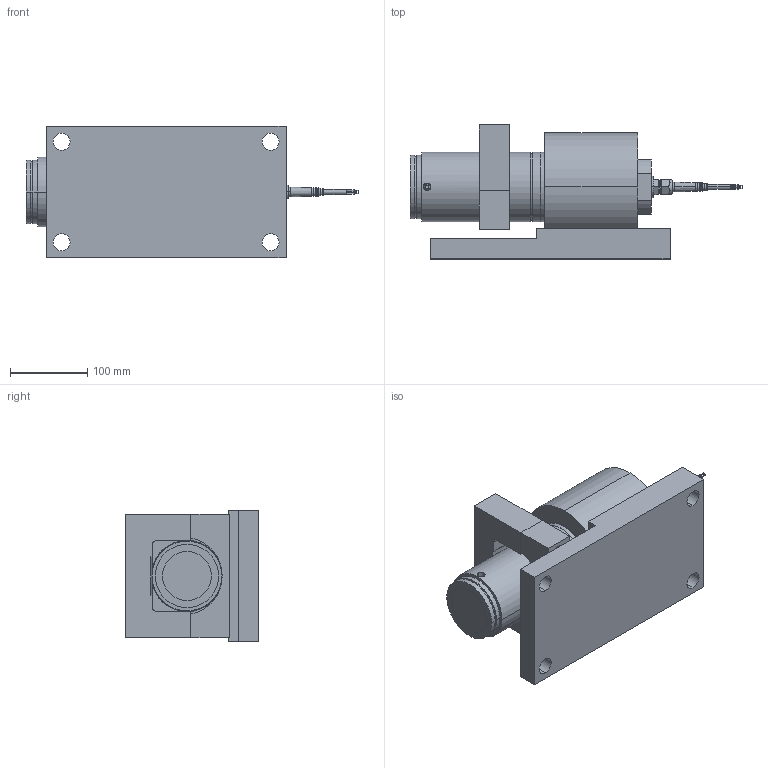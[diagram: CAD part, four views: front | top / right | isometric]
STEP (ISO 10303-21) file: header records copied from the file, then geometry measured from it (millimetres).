
FILE_DESCRIPTION (( 'STEP AP214' ), '1' );
FILE_NAME ('KIS-1 100 kN Module.STEP', '2021-06-30T13:41:16', ( '' ), ( '' ), 'SwSTEP 2.0', 'SolidWorks 2021', '' );
FILE_SCHEMA (( 'AUTOMOTIVE_DESIGN' ));
Length unit declared in the file: millimetre
Products named in the file (13): 5196892r1; KIS-1 100 kN Module; Pg9 - 1009.52 6_2_14; M26x1.5 - Pg9 - 6369829; 4095994r3; 1157653 - KIS-1 100kN - Rostfri; Standardkabel 4-Cond PVC; 4084481r2; Wiberger-frp_8x20; Tätning Hylsa Silikon^1157653 - KIS-1 100kN - Rostfri; 3053865r1_Default<As Machined>; socket head cap screw_iso_ISO 4762 M12 x 35 - 35N; 5178676r1
Assembly tree (13 placements, depth 3):
  KIS-1 100 kN Module
    1157653 - KIS-1 100kN - Rostfri
      4095994r3
      5196892r1
      Tätning Hylsa Silikon^1157653 - KIS-1 100kN - Rostfri
      Pg9 - 1009.52 6_2_14
      Standardkabel 4-Cond PVC
      Wiberger-frp_8x20
      M26x1.5 - Pg9 - 6369829
    3053865r1_Default<As Machined>
    5178676r1
    4084481r2
    socket head cap screw_iso_ISO 4762 M12 x 35 - 35N  x2
Bounding box: 429 x 173 x 170 mm (x, y, z)
Volume: 4994577.1 mm3; surface area: 539643.1 mm2
Topology: 13 solids, 16 shells, 575 faces, 1391 edges, 893 vertices
Faces by surface type: plane 277, cylinder 162, cone 67, bspline 49, torus 20
Entity records: 26045 total; most frequent: CARTESIAN_POINT 10140, ORIENTED_EDGE 2658, DIRECTION 2547, EDGE_CURVE 1329, AXIS2_PLACEMENT_3D 899, VERTEX_POINT 860, LINE 749, VECTOR 749
